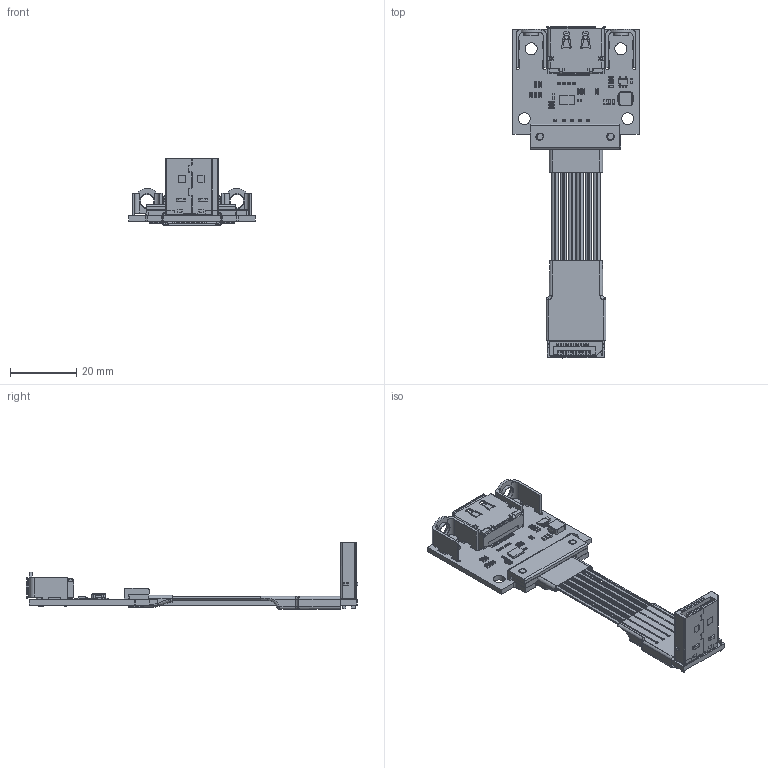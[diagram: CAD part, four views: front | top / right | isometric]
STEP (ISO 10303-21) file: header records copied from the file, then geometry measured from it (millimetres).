
FILE_DESCRIPTION(('Open CASCADE Model'),'2;1');
FILE_NAME('Open CASCADE Shape Model','2025-12-30T11:32:42',('Author'),( 'Open CASCADE'),'Open CASCADE STEP processor 7.5','Open CASCADE 7.5' ,'Unknown');
FILE_SCHEMA(('AUTOMOTIVE_DESIGN { 1 0 10303 214 1 1 1 1 }'));
Length unit declared in the file: millimetre
Products named in the file (130): PCB; Board; Open CASCADE STEP translator 7.5 4.1.1; C1; C0201_020; C2; C3; C4; C5; C6; C7; C8; C9; C10; C11; C12; C13; C14; C15; C16; C17; C18; C19; C0603_060; C20; C21; C22; C23; C24; C25; C26; C27; C28; CN1; DP DisplayPort2; L1; WE_Inductor_4020; R1; 0603_RES; Capsule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
Assembly tree (224 placements, depth 4):
  PCB
    Board
      Open CASCADE STEP translator 7.5 4.1.1
    C1
      C0201_020
      C0201_020
      C0201_020
    C2
      C0201_020
      C0201_020
      C0201_020
    C3
      C0201_020
      C0201_020
      C0201_020
    C4
      C0201_020
      C0201_020
      C0201_020
    C5
      C0201_020
      C0201_020
      C0201_020
    C6
      C0201_020
      C0201_020
      C0201_020
    C7
      C0201_020
      C0201_020
      C0201_020
    C8
      C0201_020
      C0201_020
      C0201_020
    C9
      C0201_020
      C0201_020
      C0201_020
    C10
      C0201_020
      C0201_020
      C0201_020
    C11
      C0201_020
      C0201_020
      C0201_020
    C12
      C0201_020
      C0201_020
      C0201_020
    C13
      C0201_020
      C0201_020
      C0201_020
    C14
      C0201_020
      C0201_020
      C0201_020
    C15
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Bounding box: 38.01 x 99.92 x 20.1 mm (x, y, z)
Volume: 6528.3 mm3; surface area: 31399.5 mm2
Topology: 239 solids, 240 shells, 6542 faces, 16827 edges, 10780 vertices
Faces by surface type: plane 3137, cylinder 1589, bspline 1554, sphere 224, torus 28, cone 6, revolution 4
Full cylindrical faces by diameter (mm): 0.254 x84, 0.392 x1, 0.55 x20, 1.4 x1, 2.2 x4, 3.6 x4, 4 x2, 4.4 x2
Entity records: 158164 total; most frequent: CARTESIAN_POINT 31642, ORIENTED_EDGE 17422, DIRECTION 13532, EDGE_CURVE 8715, VERTEX_POINT 5744, PRESENTATION_STYLE_ASSIGNMENT 5399, SURFACE_STYLE_USAGE 5399, SURFACE_SIDE_STYLE 5399
